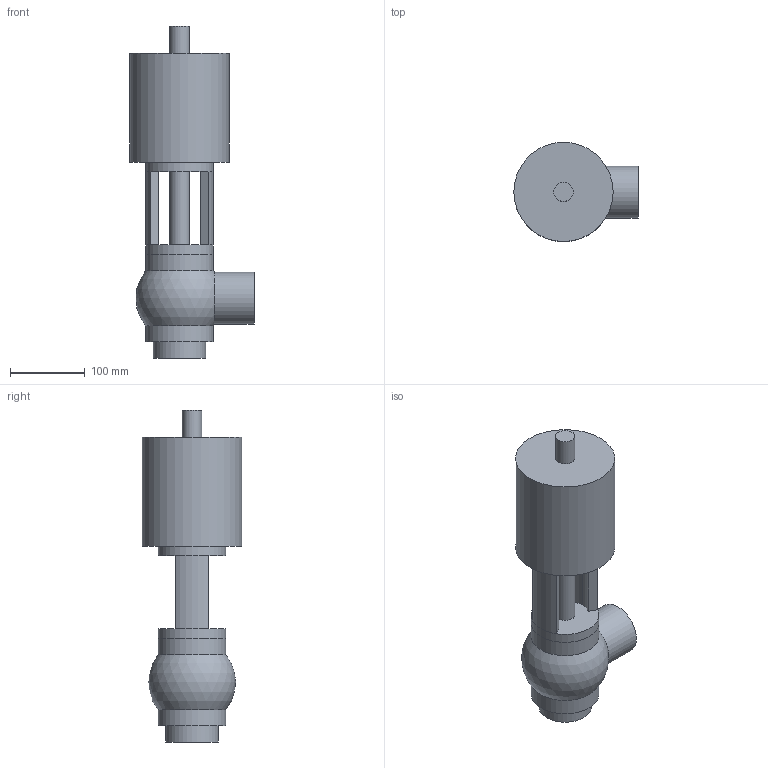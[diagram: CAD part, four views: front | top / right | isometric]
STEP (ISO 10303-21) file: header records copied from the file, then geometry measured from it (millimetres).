
FILE_DESCRIPTION(('FreeCAD Model'),'2;1');
FILE_NAME('/home/martin/Documents/proyect/valves/stp/valve_L_DN-65.step' ,'2018-01-12T21:56:47',('Author'),(''), 'Open CASCADE STEP processor 6.8','FreeCAD','Unknown');
FILE_SCHEMA(('AUTOMOTIVE_DESIGN_CC2 { 1 2 10303 214 -1 1 5 4 }'));
Length unit declared in the file: millimetre
Products named in the file (3): ASSEMBLY; valve_L_DN-65-body; valve_L_DN-65-head
Assembly tree (2 placements, depth 2):
  ASSEMBLY
    valve_L_DN-65-body
    valve_L_DN-65-head
Bounding box: 166.5 x 133 x 445 mm (x, y, z)
Volume: 2796784.2 mm3; surface area: 244167.2 mm2
Topology: 2 solids, 2 shells, 33 faces, 74 edges, 46 vertices
Faces by surface type: cylinder 16, plane 15, sphere 2
Full cylindrical faces by diameter (mm): 26 x2, 66 x2, 70 x2, 91 x4, 133 x1
Entity records: 2135 total; most frequent: CARTESIAN_POINT 431, DIRECTION 324, ORIENTED_EDGE 146, PCURVE 146, DEFINITIONAL_REPRESENTATION 146, LINE 135, VECTOR 135, AXIS2_PLACEMENT_3D 81
